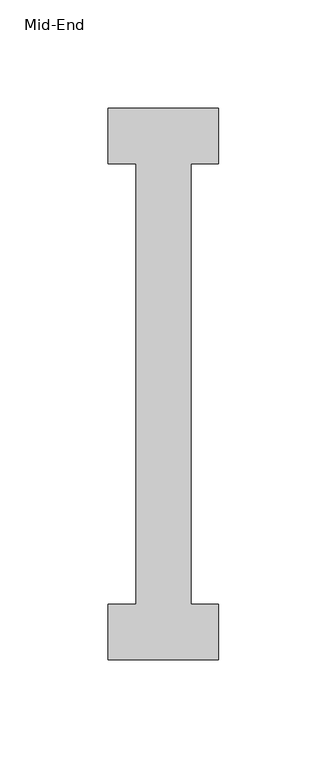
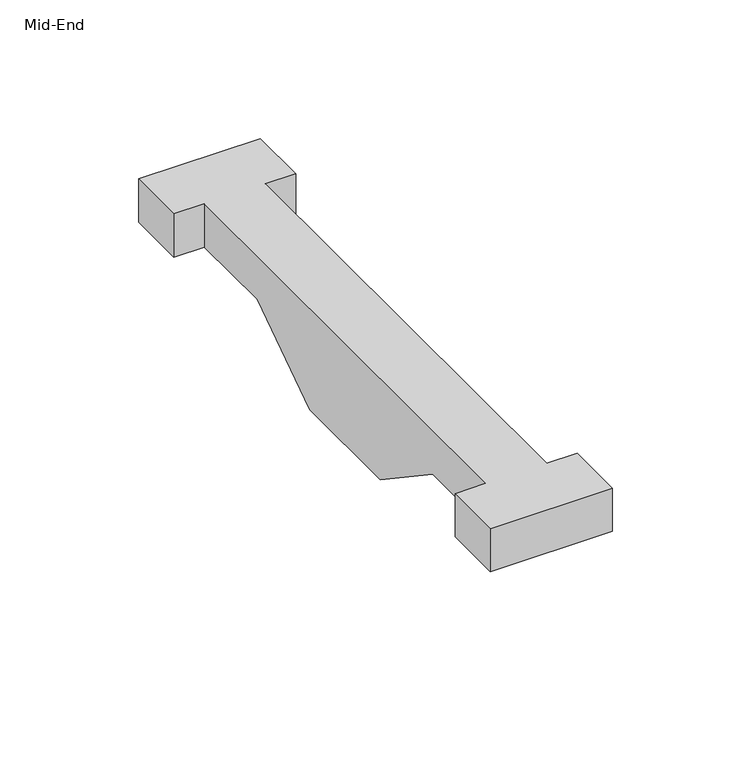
"""IFC4 building model written with IfcOpenShell, lengths in millimetres: furniture geometry, HermanMiller_ActionOffice_AO460-AO464_TransactionSurfaceSupport : Mid-End."""

from ifc_helpers import new_model, si_unit, origin, place, context, project, spatial, faceted_brep, source, transform, mapped, element, save


def mid_end_35fd1d4e(model_context):
    return source(origin(), model_context, "Body", "Brep", [
        faceted_brep([(1524.0, 117.475, 1184.2749985), (1524.0, 92.075, 1184.2749985), (1524.0, 92.075, 1203.325), (1524.0, 117.475, 1203.325), (1524.0, -136.525, 1203.325), (1524.0, -111.124997, 1203.325), (1524.0, -111.124997, 1184.2749985), (1524.0, -136.525, 1184.2749985), (1574.8, 117.475, 1184.2749985), (1574.8, 117.475, 1203.325), (1574.8, 92.075, 1203.325), (1574.8, 92.075, 1184.2749985), (1574.8, -136.525, 1203.325), (1574.8, -136.525, 1184.2749985), (1574.8, -111.124997, 1184.2749985), (1574.8, -111.124997, 1203.325), (1562.0999996, 92.075, 1184.2749985), (1562.0999996, 53.975, 1184.2749985), (1536.6999989, 53.975, 1184.2749985), (1536.6999989, 92.075, 1184.2749985), (1536.6999989, 92.075, 1203.325), (1562.0999996, 92.075, 1203.325), (1536.6999989, -111.124997, 1203.325), (1562.0999996, -111.124997, 1203.325), (1536.6999989, -111.124997, 1184.2749985), (1562.0999996, -111.124997, 1184.2749985), (1536.6999989, -73.024997, 1184.2749985), (1562.0999996, -73.024997, 1184.2749985), (1536.6999989, 15.875, 1158.875), (1536.6999989, -34.9250015, 1158.875), (1562.0999996, -34.9250015, 1158.875), (1562.0999996, 15.875, 1158.875)], [[[0, 1, 2, 3]], [[4, 5, 6, 7]], [[8, 9, 10, 11]], [[12, 13, 14, 15]], [[1, 0, 8, 11, 16, 17, 18, 19]], [[2, 1, 19, 20]], [[11, 10, 21, 16]], [[3, 2, 20, 22, 5, 4, 12, 15, 23, 21, 10, 9]], [[0, 3, 9, 8]], [[6, 5, 22, 24]], [[15, 14, 25, 23]], [[7, 6, 24, 26, 27, 25, 14, 13]], [[4, 7, 13, 12]], [[22, 20, 19, 18, 28, 29, 26, 24]], [[25, 27, 30, 31, 17, 16, 21, 23]], [[28, 18, 17, 31]], [[29, 28, 31, 30]], [[26, 29, 30, 27]]]),
    ])


if __name__ == "__main__":
    model = new_model("IFC4")
    model_context = context("Model", 3, world=origin())
    ifc_project = project(units=[si_unit("LENGTHUNIT", "METRE", prefix="MILLI")], contexts=[model_context])
    site = spatial("IfcSite", under=ifc_project)
    building = spatial("IfcBuilding", under=site)
    placement = place(None, origin())
    mid_end_shape = mid_end_35fd1d4e(model_context)
    element("IfcFurniture", 1, ObjectType="HermanMiller_ActionOffice_AO460-AO464_TransactionSurfaceSupport : Mid-End", at=placement, inside=building, context=model_context, shape_type="MappedRepresentation", body=[
        mapped(mid_end_shape, transform((0.0, 0.0, 0.0), x_axis=(1.0, 0.0, 0.0), y_axis=(0.0, 1.0, 0.0), z_axis=(0.0, 0.0, 1.0))),
    ])
    save(model, "model.ifc")
